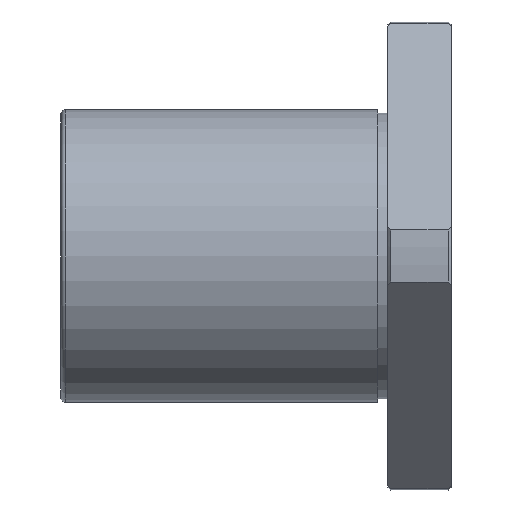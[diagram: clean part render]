
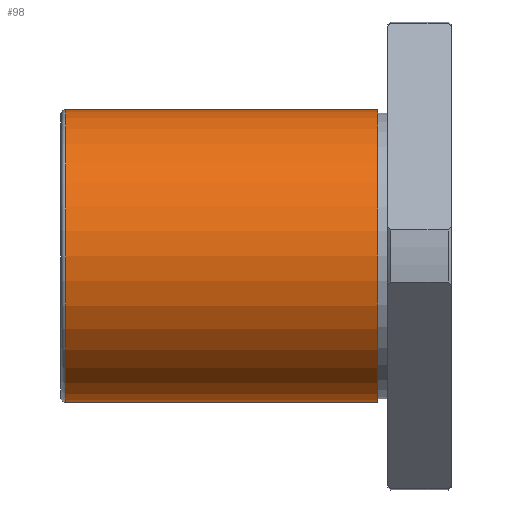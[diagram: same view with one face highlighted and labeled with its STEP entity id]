
A CAD part, front view. The second image highlights one B-rep face of the part: STEP entity #98.
In plain terms, the highlighted cylindrical face has radius 30 mm (diameter 60 mm), a full revolution.
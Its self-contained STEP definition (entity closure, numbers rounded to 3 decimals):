
#98=ADVANCED_FACE('',(#173,#174),#175,.T.);
#173=FACE_OUTER_BOUND('',#273,.T.);
#174=FACE_OUTER_BOUND('',#274,.T.);
#175=CYLINDRICAL_SURFACE('',#275,30.0);
#273=EDGE_LOOP('',(#497));
#274=EDGE_LOOP('',(#498));
#275=AXIS2_PLACEMENT_3D('',#499,#500,#501);
#497=ORIENTED_EDGE('',*,*,#618,.F.);
#498=ORIENTED_EDGE('',*,*,#600,.T.);
#499=CARTESIAN_POINT('',(-47.0,0.,0.));
#500=DIRECTION('',(-1.0,-0.0,0.));
#501=DIRECTION('',(0.0,1.0,0.0));
#600=EDGE_CURVE('',#702,#702,#703,.T.);
#618=EDGE_CURVE('',#735,#735,#736,.T.);
#702=VERTEX_POINT('',#935);
#703=CIRCLE('',#936,30.0);
#735=VERTEX_POINT('',#1007);
#736=CIRCLE('',#1008,30.0);
#935=CARTESIAN_POINT('',(-15.0,30.0,0.0));
#936=AXIS2_PLACEMENT_3D('',#1110,#1111,#1112);
#1007=CARTESIAN_POINT('',(-79.0,30.0,0.));
#1008=AXIS2_PLACEMENT_3D('',#1146,#1147,#1148);
#1110=CARTESIAN_POINT('',(-15.0,0.,0.0));
#1111=DIRECTION('',(-1.0,0.0,0.));
#1112=DIRECTION('',(0.0,1.0,0.0));
#1146=CARTESIAN_POINT('',(-79.0,0.,0.));
#1147=DIRECTION('',(-1.0,0.0,0.));
#1148=DIRECTION('',(0.0,1.0,0.0));
